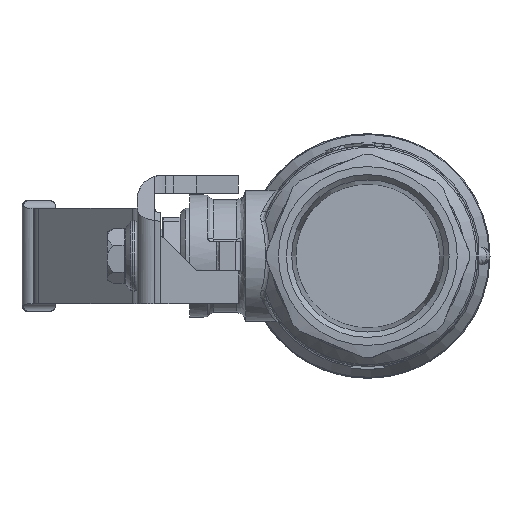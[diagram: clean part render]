
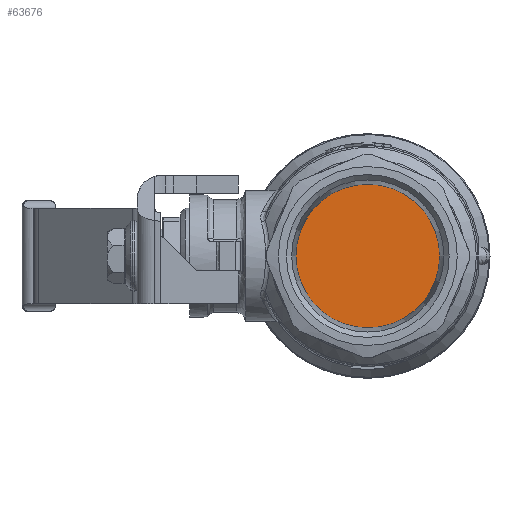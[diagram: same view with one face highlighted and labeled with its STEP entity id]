
A CAD part, left-side view. The second image highlights one B-rep face of the part: STEP entity #63676.
In plain terms, the highlighted planar face has unit normal (-1, 0, 0).
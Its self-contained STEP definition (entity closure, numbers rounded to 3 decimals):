
#63653=CARTESIAN_POINT('',(-37.45,-12.055,0.0));
#63654=VERTEX_POINT('',#63653);
#63655=CARTESIAN_POINT('',(-37.45,0.0,0.0));
#63656=DIRECTION('',(-1.0,0.0,0.0));
#63657=DIRECTION('',(0.0,-1.0,0.0));
#63658=AXIS2_PLACEMENT_3D('',#63655,#63656,#63657);
#63659=CIRCLE('',#63658,12.055);
#63660=EDGE_CURVE('',#63654,#63654,#63659,.T.);
#63668=CARTESIAN_POINT('',(-37.45,-6.028,0.0));
#63669=DIRECTION('',(-1.0,0.0,0.0));
#63670=DIRECTION('',(0.0,0.0,1.0));
#63671=AXIS2_PLACEMENT_3D('',#63668,#63669,#63670);
#63672=PLANE('',#63671);
#63673=ORIENTED_EDGE('',*,*,#63660,.T.);
#63674=EDGE_LOOP('',(#63673));
#63675=FACE_OUTER_BOUND('',#63674,.T.);
#63676=ADVANCED_FACE('',(#63675),#63672,.T.);
